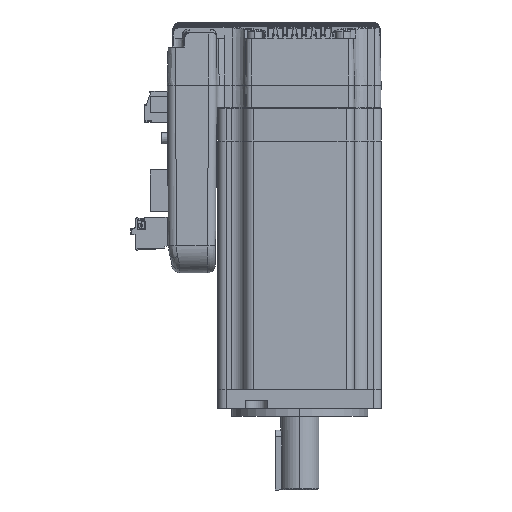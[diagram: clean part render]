
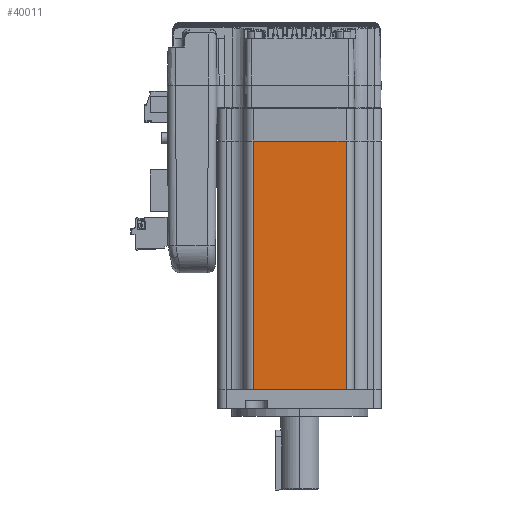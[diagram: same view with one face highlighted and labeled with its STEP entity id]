
A CAD part, left-side view. The second image highlights one B-rep face of the part: STEP entity #40011.
In plain terms, the highlighted planar face has unit normal (-1, 0, 0).
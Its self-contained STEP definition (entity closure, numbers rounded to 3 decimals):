
#1268 = LINE ( 'NONE', #2836, #71399 ) ;
#2836 = CARTESIAN_POINT ( 'NONE',  ( -30., 17., 63. ) ) ;
#4413 = LINE ( 'NONE', #6563, #76721 ) ;
#6563 = CARTESIAN_POINT ( 'NONE',  ( -30., -17., 63. ) ) ;
#8724 = CARTESIAN_POINT ( 'NONE',  ( -30., 17., 91.07 ) ) ;
#9667 = DIRECTION ( 'NONE',  ( 0., 0., 1. ) ) ;
#13120 = DIRECTION ( 'NONE',  ( 0., 0., -1. ) ) ;
#18434 = DIRECTION ( 'NONE',  ( 1., 0., 0. ) ) ;
#19184 = LINE ( 'NONE', #8724, #71262 ) ;
#21074 = EDGE_CURVE ( 'NONE', #52090, #41123, #4413, .T. ) ;
#26028 = VERTEX_POINT ( 'NONE', #74112 ) ;
#27869 = FACE_OUTER_BOUND ( 'NONE', #66415, .T. ) ;
#33433 = CARTESIAN_POINT ( 'NONE',  ( -30., -17., 0. ) ) ;
#34182 = CARTESIAN_POINT ( 'NONE',  ( -30., -17., 91.07 ) ) ;
#40011 = ADVANCED_FACE ( 'NONE', ( #27869 ), #72480, .F. ) ;
#40832 = EDGE_CURVE ( 'NONE', #41123, #45674, #85166, .T. ) ;
#41123 = VERTEX_POINT ( 'NONE', #33433 ) ;
#45674 = VERTEX_POINT ( 'NONE', #73774 ) ;
#49014 = VECTOR ( 'NONE', #69421, 1000. ) ;
#51821 = ORIENTED_EDGE ( 'NONE', *, *, #67587, .F. ) ;
#52090 = VERTEX_POINT ( 'NONE', #34182 ) ;
#56234 = DIRECTION ( 'NONE',  ( 0., -1., 0. ) ) ;
#59134 = CARTESIAN_POINT ( 'NONE',  ( -30., 17., 63. ) ) ;
#60744 = ORIENTED_EDGE ( 'NONE', *, *, #21074, .F. ) ;
#65939 = DIRECTION ( 'NONE',  ( 0., 1., 0. ) ) ;
#66415 = EDGE_LOOP ( 'NONE', ( #60744, #51821, #71042, #76133 ) ) ;
#67587 = EDGE_CURVE ( 'NONE', #26028, #52090, #19184, .T. ) ;
#69421 = DIRECTION ( 'NONE',  ( 0., 1., 0. ) ) ;
#70691 = EDGE_CURVE ( 'NONE', #45674, #26028, #1268, .T. ) ;
#71042 = ORIENTED_EDGE ( 'NONE', *, *, #70691, .F. ) ;
#71262 = VECTOR ( 'NONE', #56234, 1000. ) ;
#71399 = VECTOR ( 'NONE', #9667, 1000. ) ;
#72480 = PLANE ( 'NONE',  #82060 ) ;
#73774 = CARTESIAN_POINT ( 'NONE',  ( -30., 17., 0. ) ) ;
#74112 = CARTESIAN_POINT ( 'NONE',  ( -30., 17., 91.07 ) ) ;
#75988 = CARTESIAN_POINT ( 'NONE',  ( -30., 17., 0. ) ) ;
#76133 = ORIENTED_EDGE ( 'NONE', *, *, #40832, .F. ) ;
#76721 = VECTOR ( 'NONE', #13120, 1000. ) ;
#82060 = AXIS2_PLACEMENT_3D ( 'NONE', #59134, #18434, #65939 ) ;
#85166 = LINE ( 'NONE', #75988, #49014 ) ;
